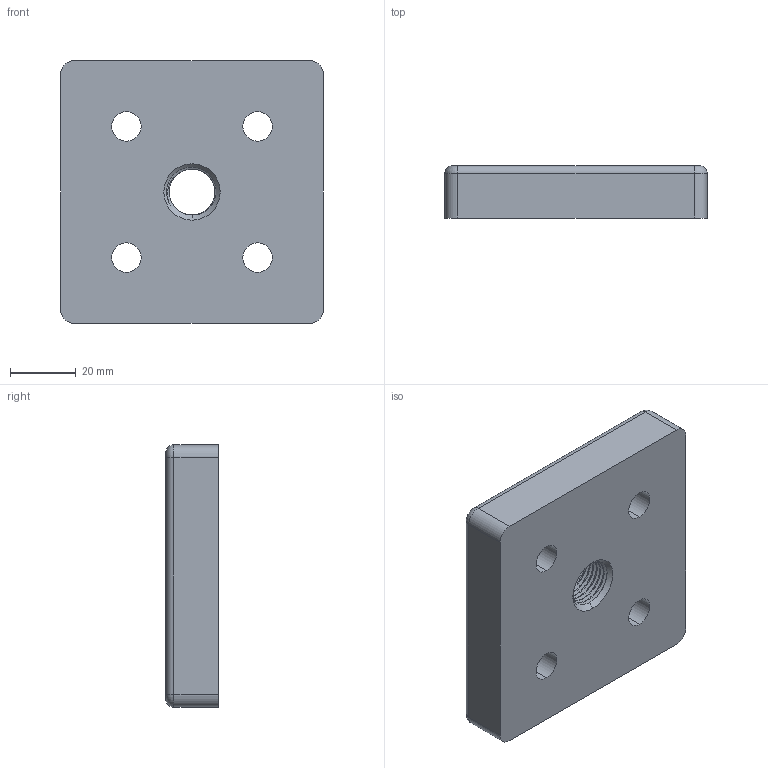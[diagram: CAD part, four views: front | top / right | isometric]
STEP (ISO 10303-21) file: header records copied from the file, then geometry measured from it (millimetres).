
FILE_DESCRIPTION (( 'STEP AP203' ), '1' );
FILE_NAME ('50388816_Fußplatte 8 ZN 80x80 M16.step', '2023-03-20T14:53:28', ( '' ), ( '' ), 'SwSTEP 2.0', 'SolidWorks 2021', '' );
FILE_SCHEMA (( 'CONFIG_CONTROL_DESIGN' ));
Length unit declared in the file: millimetre
Products named in the file (1): 50388816_Fußplatte 8 ZN 80x80 M16
Bounding box: 80 x 16 x 80 mm (x, y, z)
Volume: 90813.1 mm3; surface area: 20157.9 mm2
Topology: 1 solids, 1 shells, 63 faces, 163 edges, 106 vertices
Faces by surface type: cylinder 42, plane 10, cone 4, torus 4, bspline 3
Entity records: 6055 total; most frequent: CARTESIAN_POINT 4488, ORIENTED_EDGE 326, DIRECTION 295, EDGE_CURVE 163, AXIS2_PLACEMENT_3D 119, VERTEX_POINT 106, EDGE_LOOP 77, FACE_OUTER_BOUND 63
